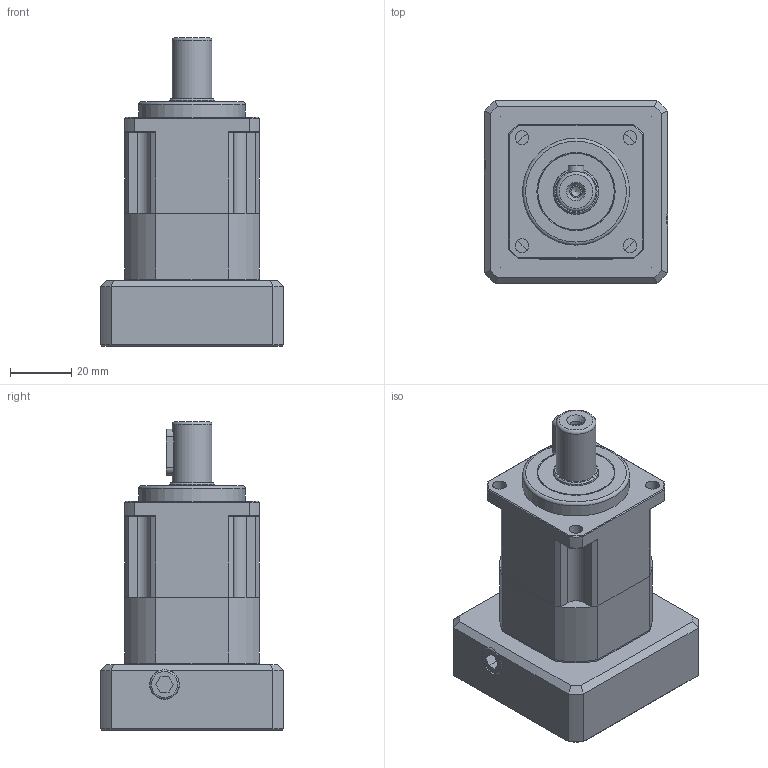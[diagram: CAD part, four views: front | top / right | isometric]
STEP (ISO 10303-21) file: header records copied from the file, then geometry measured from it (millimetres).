
FILE_DESCRIPTION((''),'2;1');
FILE_NAME('E:\감속기 도면\조립도(서보규격별)\KSB_PGX-H\KSB-44 (PGX44-H)\KSB-44-1(50-70-M5-S11) 특주.stp','2020-09-23T10:43:16',('young'),(''),'Autodesk Inventor 2012','Autodesk Inventor 2012','');
FILE_SCHEMA(('AUTOMOTIVE_DESIGN { 1 0 10303 214 1 1 1 1 }'));
Length unit declared in the file: millimetre
Products named in the file (4): 조립품1; PGX44-H-1(S11); 44-BK(50-70-M4)22T; BS 4168 : 부품 1 6각 소켓 머리 캡 나사 - 미터 M4 x 10
Assembly tree (6 placements, depth 2):
  조립품1
    PGX44-H-1(S11)
    44-BK(50-70-M4)22T
    BS 4168 : 부품 1 6각 소켓 머리 캡 나사 - 미터 M4 x 10  x4
Bounding box: 60 x 60 x 101 mm (x, y, z)
Volume: 129162.1 mm3; surface area: 47027.4 mm2
Topology: 16 solids, 20 shells, 439 faces, 1057 edges, 680 vertices
Faces by surface type: plane 229, cylinder 118, cone 69, torus 14, bspline 9
Full cylindrical faces by diameter (mm): 2.5 x4, 3.242 x5, 3.3 x5, 4 x6, 4.2 x8, 4.5 x9, 6 x4, 7 x5, 9.5 x2, 11 x1, 13 x1, 14.2 x1, 14.8 x2, 15 x3, 25 x4, 28 x1, 30 x1, 32 x3, 35 x1, 50 x1
Entity records: 11793 total; most frequent: CARTESIAN_POINT 2865, DIRECTION 1807, ORIENTED_EDGE 1654, EDGE_CURVE 827, AXIS2_PLACEMENT_3D 691, VERTEX_POINT 586, EDGE_LOOP 553, VECTOR 425
